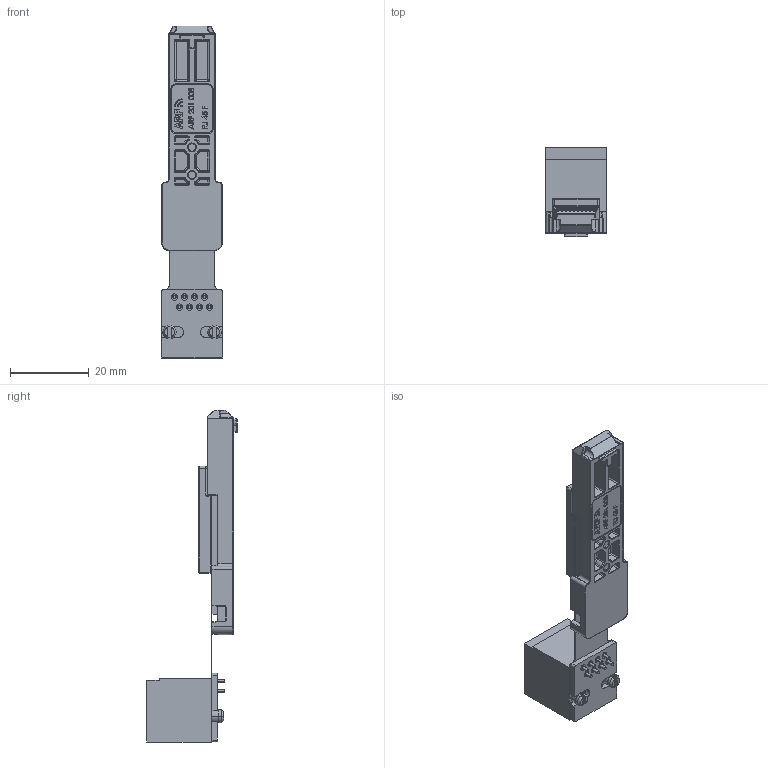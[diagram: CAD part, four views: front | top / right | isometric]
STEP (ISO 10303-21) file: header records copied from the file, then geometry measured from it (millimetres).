
FILE_DESCRIPTION (( 'STEP AP214' ), '1' );
FILE_NAME ('RJ45 FLEX - ARF 201 008 RJ45 F.STEP', '2024-07-10T10:18:39', ( '' ), ( '' ), 'SwSTEP 2.0', 'SolidWorks 2015', '' );
FILE_SCHEMA (( 'AUTOMOTIVE_DESIGN' ));
Length unit declared in the file: millimetre
Products named in the file (10): RJ45 FLEX - ARF 201 008 RJ45 F; 5593_803; 5593_022-rj45-capot-v3; 5593_178; vis_fr; 5593_019-rj45-fond-v4 (Flex Court); 5593_173-v3-moule; 5593_171-v4-moule; 485_928; 5593_083-rj45-flex
Assembly tree (11 placements, depth 3):
  RJ45 FLEX - ARF 201 008 RJ45 F
    5593_019-rj45-fond-v4 (Flex Court)
      5593_171-v4-moule
    5593_022-rj45-capot-v3
      5593_173-v3-moule
    vis_fr  x2
    5593_083-rj45-flex
      5593_803
      485_928
    5593_178  x2
Bounding box: 15.5 x 22.9 x 84.17 mm (x, y, z)
Volume: 6869.9 mm3; surface area: 10348.5 mm2
Topology: 10 solids, 10 shells, 2755 faces, 6747 edges, 4082 vertices
Faces by surface type: cylinder 914, plane 844, bspline 389, torus 385, cone 142, sphere 81
Entity records: 80165 total; most frequent: CARTESIAN_POINT 25103, DIRECTION 11361, ORIENTED_EDGE 11226, EDGE_CURVE 5613, AXIS2_PLACEMENT_3D 4384, VERTEX_POINT 3378, LINE 2593, VECTOR 2593
